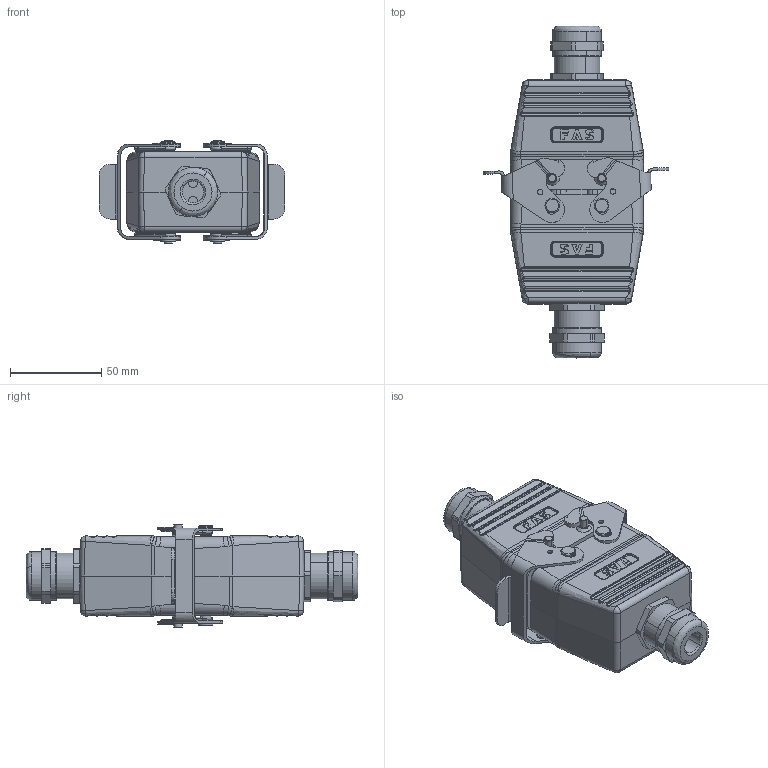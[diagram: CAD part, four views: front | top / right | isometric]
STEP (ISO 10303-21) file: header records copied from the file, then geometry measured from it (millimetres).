
FILE_DESCRIPTION (( 'STEP AP214' ), '1' );
FILE_NAME ('09110109220M HESH、10针、对接底座、顶出M20套件、配金属接头.STEP', '2024-04-26T09:00:52', ( 'L' ), ( '' ), 'SwSTEP 2.0', 'SolidWorks 2019', '' );
FILE_SCHEMA (( 'AUTOMOTIVE_DESIGN' ));
Length unit declared in the file: millimetre
Products named in the file (6): HESH-010-F.stp; FAS-20-M.step; H10B-TG-M20.step; H10B-TBF-M20.step; HESH-010-M.stp; 09110109220M HESH、10针、对接底座、顶出M20套件、配金属接头
Assembly tree (6 placements, depth 2):
  09110109220M HESH、10针、对接底座、顶出M20套件、配金属接头
    HESH-010-F.stp
    HESH-010-M.stp
    H10B-TG-M20.step
    FAS-20-M.step  x2
    H10B-TBF-M20.step
Bounding box: 101.61 x 181.5 x 56.4 mm (x, y, z)
Volume: 229707.4 mm3; surface area: 113118.7 mm2
Topology: 6 solids, 6 shells, 3545 faces, 9207 edges, 5824 vertices
Faces by surface type: plane 1599, cylinder 898, bspline 490, cone 362, torus 152, sphere 44
Entity records: 138195 total; most frequent: CARTESIAN_POINT 45441, ORIENTED_EDGE 18012, DIRECTION 15588, EDGE_CURVE 9006, VERTEX_POINT 5734, AXIS2_PLACEMENT_3D 5318, VECTOR 4952, LINE 4952
